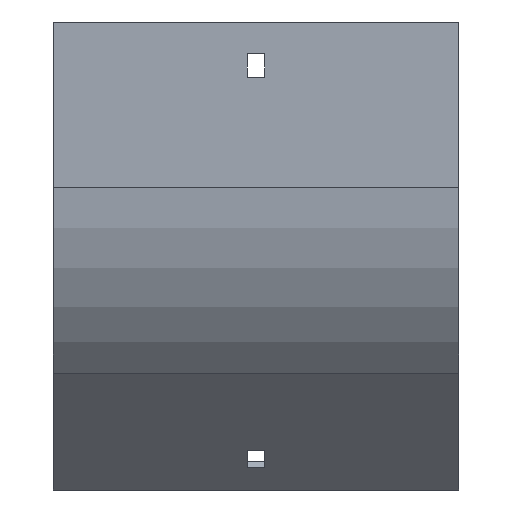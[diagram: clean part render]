
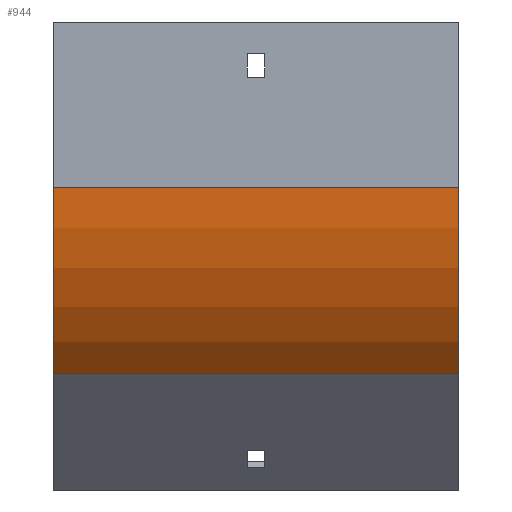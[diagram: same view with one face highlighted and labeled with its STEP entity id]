
A CAD part, front view. The second image highlights one B-rep face of the part: STEP entity #944.
In plain terms, the highlighted cylindrical face has radius 100 mm (diameter 200 mm), a partial arc.
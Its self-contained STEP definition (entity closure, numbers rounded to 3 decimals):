
#23 = DIRECTION ( 'NONE',  ( -1., 0., 0. ) ) ;
#30 = DIRECTION ( 'NONE',  ( -1., 0., 0. ) ) ;
#32 = CYLINDRICAL_SURFACE ( 'NONE', #1843, 100. ) ;
#150 = EDGE_CURVE ( 'NONE', #1299, #418, #1562, .T. ) ;
#213 = CARTESIAN_POINT ( 'NONE',  ( 77., -79., -62.723 ) ) ;
#230 = VERTEX_POINT ( 'NONE', #1771 ) ;
#319 = VECTOR ( 'NONE', #30, 1000. ) ;
#332 = CARTESIAN_POINT ( 'NONE',  ( -77., 21., -62.723 ) ) ;
#359 = CARTESIAN_POINT ( 'NONE',  ( 77., -49.711, -133.434 ) ) ;
#371 = EDGE_CURVE ( 'NONE', #1299, #230, #1373, .T. ) ;
#418 = VERTEX_POINT ( 'NONE', #359 ) ;
#570 = DIRECTION ( 'NONE',  ( 1., 0., 0. ) ) ;
#592 = DIRECTION ( 'NONE',  ( -1., 0., 0. ) ) ;
#652 = CARTESIAN_POINT ( 'NONE',  ( -77., -49.711, -133.434 ) ) ;
#717 = AXIS2_PLACEMENT_3D ( 'NONE', #904, #570, #1505 ) ;
#807 = AXIS2_PLACEMENT_3D ( 'NONE', #332, #1230, #1204 ) ;
#819 = ORIENTED_EDGE ( 'NONE', *, *, #150, .F. ) ;
#837 = EDGE_LOOP ( 'NONE', ( #1434, #1278, #819, #960 ) ) ;
#899 = CIRCLE ( 'NONE', #807, 100. ) ;
#904 = CARTESIAN_POINT ( 'NONE',  ( 77., 21., -62.723 ) ) ;
#926 = EDGE_CURVE ( 'NONE', #230, #1284, #899, .T. ) ;
#944 = ADVANCED_FACE ( 'NONE', ( #1357 ), #32, .T. ) ;
#950 = CARTESIAN_POINT ( 'NONE',  ( 77., 21., -62.723 ) ) ;
#960 = ORIENTED_EDGE ( 'NONE', *, *, #371, .T. ) ;
#1204 = DIRECTION ( 'NONE',  ( 0., 0., 1. ) ) ;
#1230 = DIRECTION ( 'NONE',  ( 1., 0., 0. ) ) ;
#1278 = ORIENTED_EDGE ( 'NONE', *, *, #1685, .F. ) ;
#1284 = VERTEX_POINT ( 'NONE', #652 ) ;
#1299 = VERTEX_POINT ( 'NONE', #1381 ) ;
#1357 = FACE_OUTER_BOUND ( 'NONE', #837, .T. ) ;
#1373 = LINE ( 'NONE', #213, #319 ) ;
#1381 = CARTESIAN_POINT ( 'NONE',  ( 77., -79., -62.723 ) ) ;
#1434 = ORIENTED_EDGE ( 'NONE', *, *, #926, .T. ) ;
#1505 = DIRECTION ( 'NONE',  ( 0., 0., 1. ) ) ;
#1535 = DIRECTION ( 'NONE',  ( 0., 0., 1. ) ) ;
#1562 = CIRCLE ( 'NONE', #717, 100. ) ;
#1569 = VECTOR ( 'NONE', #592, 1000. ) ;
#1685 = EDGE_CURVE ( 'NONE', #418, #1284, #1940, .T. ) ;
#1771 = CARTESIAN_POINT ( 'NONE',  ( -77., -79., -62.723 ) ) ;
#1794 = CARTESIAN_POINT ( 'NONE',  ( 77., -49.711, -133.434 ) ) ;
#1843 = AXIS2_PLACEMENT_3D ( 'NONE', #950, #23, #1535 ) ;
#1940 = LINE ( 'NONE', #1794, #1569 ) ;
